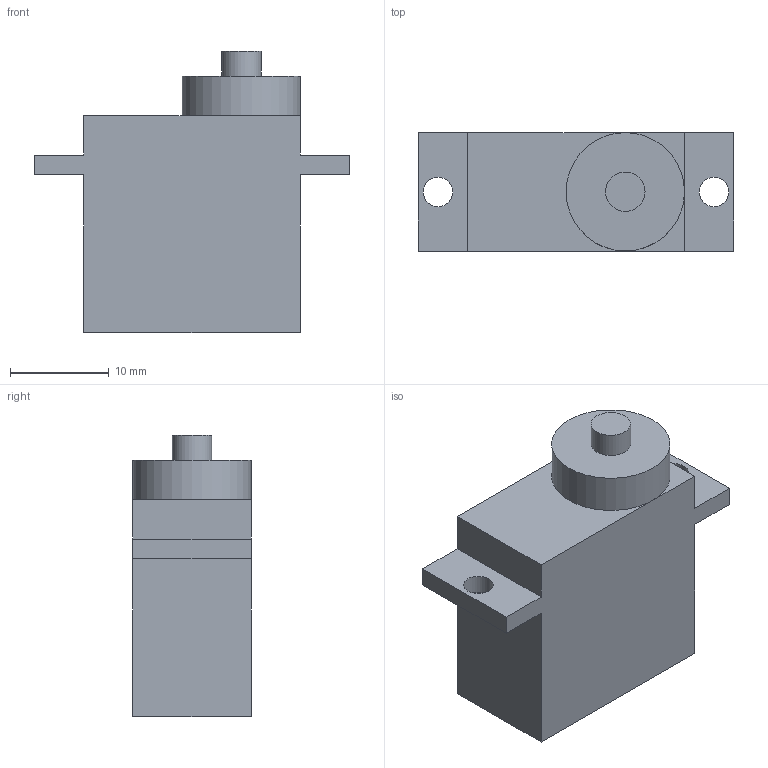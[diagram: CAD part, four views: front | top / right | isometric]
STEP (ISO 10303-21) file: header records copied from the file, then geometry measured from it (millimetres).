
FILE_DESCRIPTION(/* description */ ('STEP AP242 Edition 2','CAx-IF Rec.Pracs.---Representation and Presentation of Product Manufacturing Information (PMI)---4.0---2014-10-13','CAx-IF Rec.Pracs.---3D Tessellated Geometry---0.4---2014-09-14','2;1','CAx-IF Rec.Pracs.---User Defined Attributes---1.5---2016-08-15'),/* implementation_level */ '2;1');
FILE_NAME(/* name */ 'Assembly 1 - Part 1 (2)',/* time_stamp */ '2026-06-19T18:21:07Z',/* author */ (''),/* organization */ (''),/* preprocessor_version */ 'ST-DEVELOPER v20',/* originating_system */ 'ONSHAPE BY PTC INC, 1.216',/* authorisation */ ' ');
FILE_SCHEMA (('AP242_MANAGED_MODEL_BASED_3D_ENGINEERING_MIM_LF { 1 0 10303 442 3 1 4 }'));
Length unit declared in the file: metre
Products named in the file (1): Part 1
Bounding box: 32 x 12 x 28.5 mm (x, y, z)
Volume: 6503.5 mm3; surface area: 2495.6 mm2
Topology: 1 solids, 1 shells, 22 faces, 54 edges, 35 vertices
Faces by surface type: plane 18, cylinder 4
Full cylindrical faces by diameter (mm): 3 x2, 4 x1, 12 x1
Entity records: 660 total; most frequent: CARTESIAN_POINT 106, DIRECTION 105, ORIENTED_EDGE 98, EDGE_CURVE 49, LINE 39, VECTOR 39, VERTEX_POINT 34, AXIS2_PLACEMENT_3D 33
